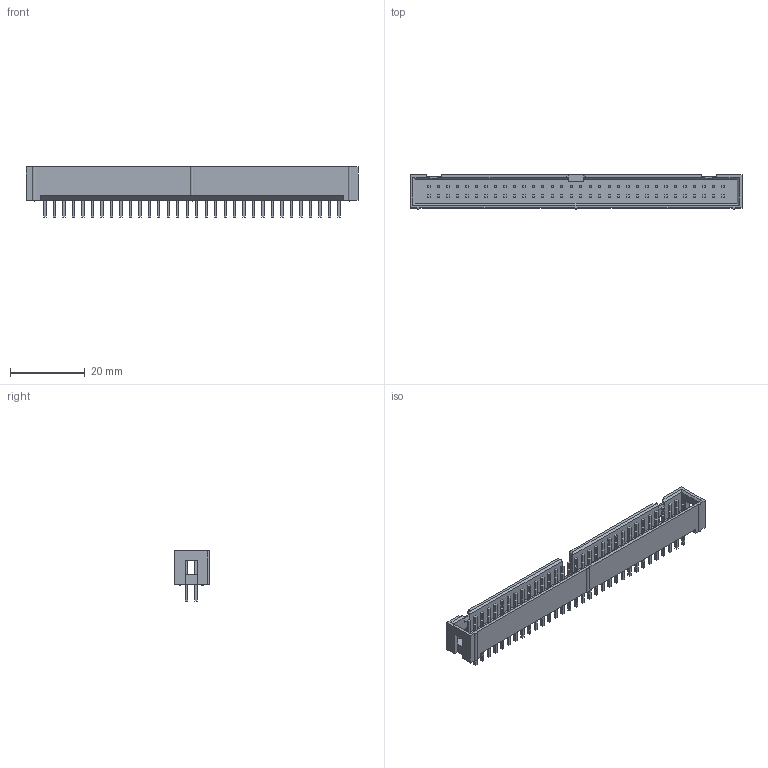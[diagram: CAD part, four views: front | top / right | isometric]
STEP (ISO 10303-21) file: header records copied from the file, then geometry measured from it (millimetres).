
FILE_DESCRIPTION((''),'2;1');
FILE_NAME('C-1761679-37-3','2007-09-07T',('workeradm'),('Tyco Electronics Corporation'),'PRO/ENGINEER BY PARAMETRIC TECHNOLOGY CORPORATION, 2005450','PRO/ENGINEER BY PARAMETRIC TECHNOLOGY CORPORATION, 2005450','');
FILE_SCHEMA(('CONFIG_CONTROL_DESIGN', 'GEOMETRIC_VALIDATION_PROPERTIES_MIM'));
Length unit declared in the file: millimetre
Products named in the file (1): C-1761679-37-3
Bounding box: 88.9 x 9.22 x 13.41 mm (x, y, z)
Volume: 3508.6 mm3; surface area: 6062.9 mm2
Topology: 1 solids, 1 shells, 723 faces, 1787 edges, 1181 vertices
Faces by surface type: plane 706, sphere 10, cylinder 7
Entity records: 21023 total; most frequent: CARTESIAN_POINT 3689, ORIENTED_EDGE 3554, DIRECTION 3253, EDGE_CURVE 1777, VECTOR 1743, LINE 1743, VERTEX_POINT 1181, EDGE_LOOP 856
